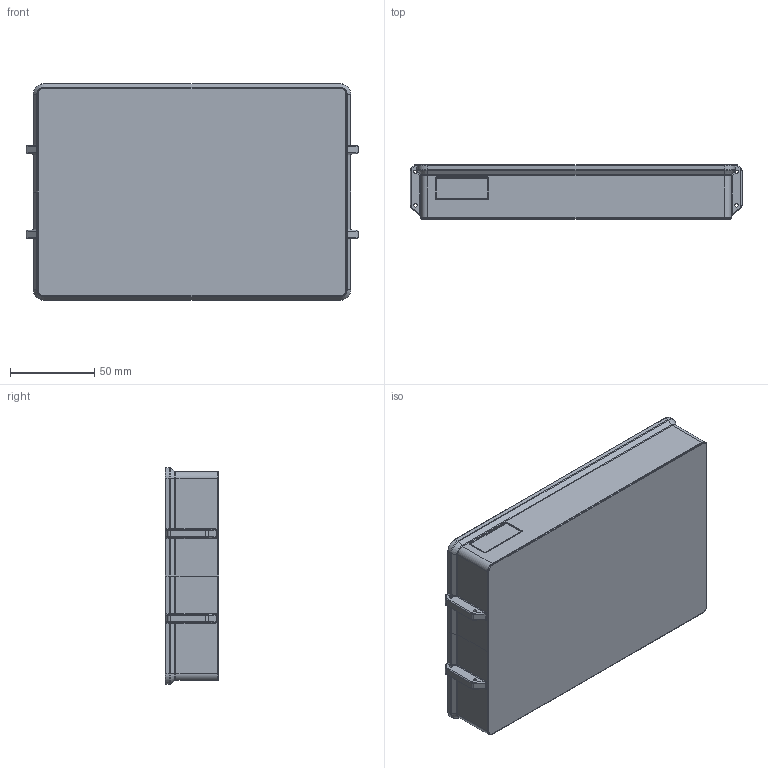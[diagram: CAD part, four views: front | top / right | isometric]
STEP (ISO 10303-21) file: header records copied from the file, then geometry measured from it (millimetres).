
FILE_DESCRIPTION (( 'STEP AP214' ), '1' );
FILE_NAME ('Tiered Storage Box 180x120x30 4 Cell Var 1.STEP', '2024-06-06T19:27:12', ( '' ), ( '' ), 'SwSTEP 2.0', 'SolidWorks 2022', '' );
FILE_SCHEMA (( 'AUTOMOTIVE_DESIGN' ));
Length unit declared in the file: millimetre
Products named in the file (1): Tiered Storage Box 180x120x30 4 Cell Var 1
Bounding box: 197 x 32 x 128.4 mm (x, y, z)
Volume: 104139.2 mm3; surface area: 104929.4 mm2
Topology: 1 solids, 1 shells, 451 faces, 1039 edges, 571 vertices
Faces by surface type: cylinder 194, plane 101, torus 88, bspline 44, cone 12, sphere 12
Entity records: 13593 total; most frequent: CARTESIAN_POINT 3486, DIRECTION 2273, ORIENTED_EDGE 2054, EDGE_CURVE 1027, AXIS2_PLACEMENT_3D 918, VERTEX_POINT 571, CIRCLE 510, EDGE_LOOP 460
